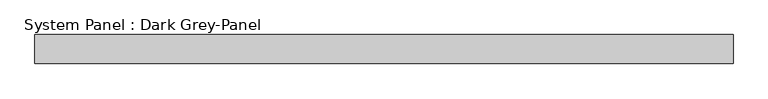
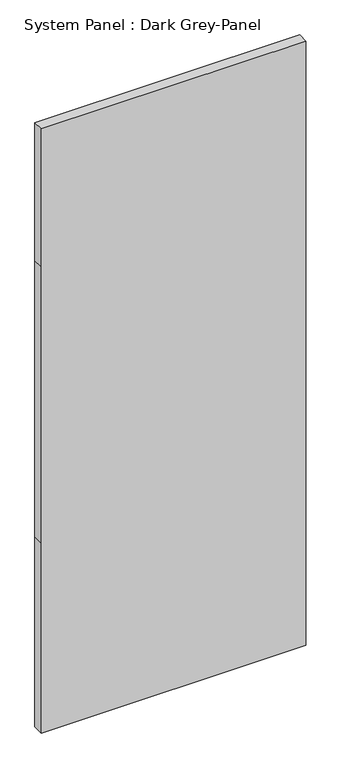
"""IFC4 building model written with IfcOpenShell, lengths in millimetres: plate geometry, System Panel : Dark Grey-Panel."""

import ifcopenshell
import ifcopenshell.guid

model = None  # the IFC model being written
_history = None  # IfcOwnerHistory: only IFC2X3 demands one
_inside = {}  # id of a spatial element -> (the spatial element, [elements in it])
_under = {}  # id of a project, library or spatial element -> (it, [spatial elements below it])
_declared = {}  # id of a project -> (the project, [libraries it declares])
_typed = {}  # id of a type object -> (the type object, [elements of that type])
_made_of = {}  # id of a material, layer set ... -> (it, [elements and type objects made of it])


def new_model(schema):
    """Start an empty IFC model of exactly this schema.

    Asked for "IFC4X3", IfcOpenShell would pick the latest addendum, in which some entities
    have other attributes; the version numbers below select the first issue.
    IFC2X3 requires an IfcOwnerHistory on every rooted entity: one is made here for all.
    """
    global model, _history
    if schema == "IFC4X3":
        model = ifcopenshell.file(schema_version=(4, 3, 0, 0))
    else:
        model = ifcopenshell.file(schema=schema)
    _inside.clear()
    _under.clear()
    _declared.clear()
    _typed.clear()
    _made_of.clear()
    _history = None
    if model.schema == "IFC2X3":
        org = make("IfcOrganization", Name="unknown")
        user = make(
            "IfcPersonAndOrganization",
            ThePerson=make("IfcPerson", FamilyName="unknown"),
            TheOrganization=org,
        )
        app = make(
            "IfcApplication",
            ApplicationDeveloper=org,
            Version="unknown",
            ApplicationFullName="unknown",
            ApplicationIdentifier="unknown",
        )
        _history = make(
            "IfcOwnerHistory",
            OwningUser=user,
            OwningApplication=app,
            ChangeAction="ADDED",
            CreationDate=0,
        )
    return model


def make(cls, **values):
    """One entity of the class cls with the attributes given. An attribute that is None is left unset."""
    return model.create_entity(
        cls, **{name: value for name, value in values.items() if value is not None}
    )


def rooted(cls, **values):
    """An entity with a GlobalId (a new one), such as an element, a storey or a relation."""
    return make(cls, GlobalId=ifcopenshell.guid.new(), OwnerHistory=_history, **values)


def si_unit(unit_type, name, prefix=None):
    """IfcSIUnit, for example si_unit("LENGTHUNIT", "METRE", prefix="MILLI")."""
    return make("IfcSIUnit", UnitType=unit_type, Prefix=prefix, Name=name)


def assignment(units):
    """IfcUnitAssignment: the units of a project."""
    return None if units is None else make("IfcUnitAssignment", Units=units)


def point(xyz):
    """IfcCartesianPoint."""
    return None if xyz is None else make("IfcCartesianPoint", Coordinates=xyz)


def direction(xyz):
    """IfcDirection."""
    return None if xyz is None else make("IfcDirection", DirectionRatios=xyz)


def frame(location, z_axis=None, x_axis=None):
    """IfcAxis2Placement3D, a coordinate frame: its origin and axes. An axis left out is left unset."""
    return make(
        "IfcAxis2Placement3D",
        Location=point(location),
        Axis=direction(z_axis),
        RefDirection=direction(x_axis),
    )


def origin():
    """The frame at (0, 0, 0) with its axes left unset."""
    return frame((0.0, 0.0, 0.0))


def place(relative_to, where):
    """IfcLocalPlacement: puts the frame where relative to a parent placement (None: the world)."""
    return make(
        "IfcLocalPlacement", PlacementRelTo=relative_to, RelativePlacement=where
    )


def context(
    kind, dimensions, precision=None, world=None, true_north=None, identifier=None
):
    """IfcGeometricRepresentationContext, for example the 3D "Model" context."""
    return make(
        "IfcGeometricRepresentationContext",
        ContextIdentifier=identifier,
        ContextType=kind,
        CoordinateSpaceDimension=dimensions,
        Precision=precision,
        WorldCoordinateSystem=world,
        TrueNorth=true_north,
    )


def project(units=None, contexts=None):
    """IfcProject with its units and contexts."""
    return rooted(
        "IfcProject",
        Name="project",
        RepresentationContexts=contexts,
        UnitsInContext=assignment(units),
    )


def spatial(cls, under=None, at=None, **own):
    """A site, building, storey or space (cls), placed at a placement, below another one or the project."""
    s = rooted(cls, ObjectPlacement=at, **own)
    if under is not None:
        _under.setdefault(under.id(), (under, []))[1].append(s)
    return s


def polyline(points):
    """IfcPolyline through the points."""
    return make("IfcPolyline", Points=[point(p) for p in points])


def outline(outer, holes=None, kind="AREA"):
    """IfcArbitraryClosedProfileDef: a profile drawn as a closed curve; with holes, ...WithVoids."""
    if holes is None:
        return make("IfcArbitraryClosedProfileDef", ProfileType=kind, OuterCurve=outer)
    return make(
        "IfcArbitraryProfileDefWithVoids",
        ProfileType=kind,
        OuterCurve=outer,
        InnerCurves=holes,
    )


def extrude(swept, where, along, depth):
    """IfcExtrudedAreaSolid: the profile swept, set in the frame where, extruded along a direction by depth."""
    return make(
        "IfcExtrudedAreaSolid",
        SweptArea=swept,
        Position=where,
        ExtrudedDirection=direction(along),
        Depth=depth,
    )


def shape(context_of_items, identifier, shape_type, items):
    """IfcShapeRepresentation: the items that make up one representation, for example the "Body"."""
    return make(
        "IfcShapeRepresentation",
        ContextOfItems=context_of_items,
        RepresentationIdentifier=identifier,
        RepresentationType=shape_type,
        Items=items,
    )


def source(mapping_origin, context_of_items, identifier, shape_type, items):
    """IfcRepresentationMap: a shape defined once, which mapped items show again and again."""
    return make(
        "IfcRepresentationMap",
        MappingOrigin=mapping_origin,
        MappedRepresentation=shape(context_of_items, identifier, shape_type, items),
    )


def transform(
    local_origin,
    x_axis=None,
    y_axis=None,
    z_axis=None,
    scale=None,
    scale2=None,
    scale3=None,
    uniform=True,
):
    """IfcCartesianTransformationOperator3D, or its non-uniform kind. x_axis, y_axis, z_axis: its Axis1, 2, 3."""
    if uniform:
        return make(
            "IfcCartesianTransformationOperator3D",
            Axis1=direction(x_axis),
            Axis2=direction(y_axis),
            LocalOrigin=point(local_origin),
            Scale=scale,
            Axis3=direction(z_axis),
        )
    return make(
        "IfcCartesianTransformationOperator3DnonUniform",
        Axis1=direction(x_axis),
        Axis2=direction(y_axis),
        LocalOrigin=point(local_origin),
        Scale=scale,
        Axis3=direction(z_axis),
        Scale2=scale2,
        Scale3=scale3,
    )


def mapped(mapping_source, mapping_target):
    """IfcMappedItem: shows the shape of a source again, moved by a transform."""
    return make(
        "IfcMappedItem", MappingSource=mapping_source, MappingTarget=mapping_target
    )


def made_of(thing, what):
    """Note that an element or type object is made of a material, layer set ...; save() writes the relation."""
    if what is not None:
        _made_of.setdefault(what.id(), (what, []))[1].append(thing)
    return thing


def element(
    cls,
    number,
    at=None,
    inside=None,
    cuts=None,
    type_object=None,
    material=None,
    context=None,
    identifier="Body",
    shape_type=None,
    held_by="IfcProductDefinitionShape",
    body=None,
    shapes=None,
    **own,
):
    """One element of the class cls, such as IfcWall. Its Tag is "e" and its number.

    at: its placement. inside: the storey or other place that contains it. cuts: it is an
    opening in that element (IfcRelVoidsElement). A single representation is given by context,
    identifier, shape_type and body (its items); several are given by shapes. held_by: the class
    of the entity that holds the representations. save() writes the other relations.
    """
    e = rooted(cls, Tag="e%d" % number, ObjectPlacement=at, **own)
    if body is not None:
        shapes = [shape(context, identifier, shape_type, body)]
    if shapes is not None:
        e.Representation = make(held_by, Representations=shapes)
    if inside is not None:
        _inside.setdefault(inside.id(), (inside, []))[1].append(e)
    if cuts is not None:
        rooted(
            "IfcRelVoidsElement", RelatingBuildingElement=cuts, RelatedOpeningElement=e
        )
    if type_object is not None:
        _typed.setdefault(type_object.id(), (type_object, []))[1].append(e)
    return made_of(e, material)


def aggregate(whole, parts):
    """IfcRelAggregates: a whole, such as a stair, and the parts it consists of."""
    return rooted("IfcRelAggregates", RelatingObject=whole, RelatedObjects=parts)


def save(model, path):
    """Write the relations noted so far, then the file.

    IfcRelAggregates (storeys below a building ...), IfcRelContainedInSpatialStructure (elements
    in a storey), IfcRelDefinesByType, IfcRelAssociatesMaterial and IfcRelDeclares: one each for
    every whole, place, type object, material and project.
    """
    for whole, parts in _under.values():
        aggregate(whole, parts)
    for where, things in _inside.values():
        rooted(
            "IfcRelContainedInSpatialStructure",
            RelatedElements=things,
            RelatingStructure=where,
        )
    for kind, things in _typed.values():
        rooted("IfcRelDefinesByType", RelatedObjects=things, RelatingType=kind)
    for what, things in _made_of.values():
        rooted("IfcRelAssociatesMaterial", RelatedObjects=things, RelatingMaterial=what)
    for by, libraries in _declared.values():
        rooted("IfcRelDeclares", RelatingContext=by, RelatedDefinitions=libraries)
    model.write(path)


def system_panel_dark_grey_panel_4b19a003(model_context):
    return source(origin(), model_context, "Body", "SweptSolid", [
        extrude(outline(polyline([(0.0, -725.0), (0.0, 725.0), (1100.0, 725.0), (2700.0, 725.0), (3500.0, 725.0), (3500.0, -725.0), (2700.0, -725.0), (1100.0, -725.0), (0.0, -725.0)])), frame((0.0, -10.5, 0.0), z_axis=(0.0, 1.0, 0.0), x_axis=(0.0, 0.0, 1.0)), (0.0, 0.0, 1.0), 60.0),
    ])


if __name__ == "__main__":
    model = new_model("IFC4")
    model_context = context("Model", 3, world=origin())
    ifc_project = project(units=[si_unit("LENGTHUNIT", "METRE", prefix="MILLI")], contexts=[model_context])
    site = spatial("IfcSite", under=ifc_project)
    building = spatial("IfcBuilding", under=site)
    placement = place(None, origin())
    system_panel_dark_grey_panel_shape = system_panel_dark_grey_panel_4b19a003(model_context)
    element("IfcPlate", 1, ObjectType="System Panel : Dark Grey-Panel", at=placement, inside=building, context=model_context, shape_type="MappedRepresentation", body=[
        mapped(system_panel_dark_grey_panel_shape, transform((0.0, 0.0, 0.0), x_axis=(1.0, 0.0, 0.0), y_axis=(0.0, 1.0, 0.0), z_axis=(0.0, 0.0, 1.0))),
    ])
    save(model, "model.ifc")
